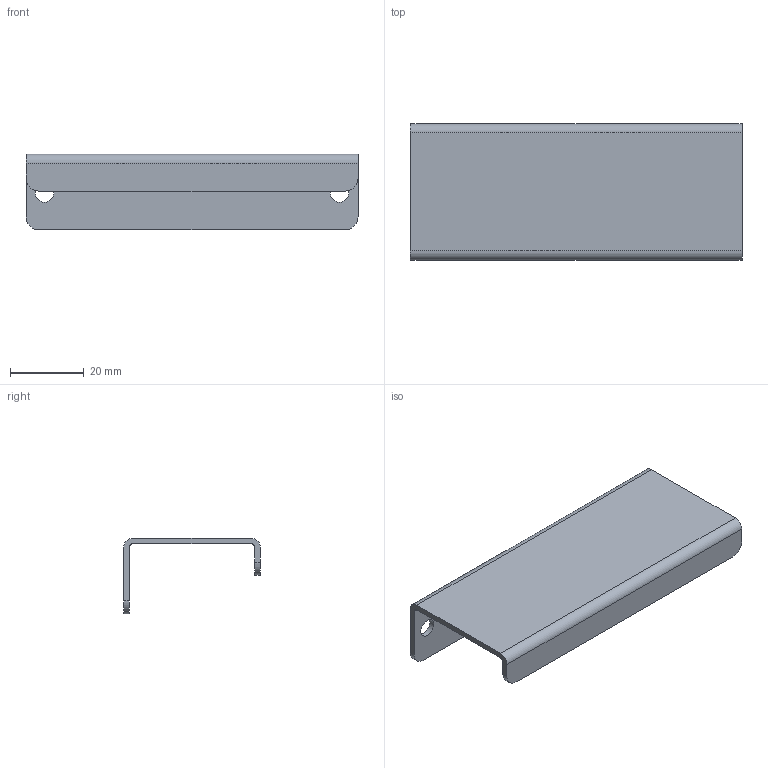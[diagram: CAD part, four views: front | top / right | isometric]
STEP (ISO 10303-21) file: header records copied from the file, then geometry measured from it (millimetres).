
FILE_DESCRIPTION( ( 'STEP AP214' ), '1' );
FILE_NAME( 'C:/Users/kulkarni/Desktop/Apurva/2015/Prodecor_2016/Cadfiles/same as files/Narni/9206741.stp', ' ', ( ' ' ), ( ' ' ), 'PSStep 15.0.47', 'PARTsolutions', ' ' );
FILE_SCHEMA( ( 'AUTOMOTIVE_DESIGN { 1 0 10303 214 1 1 1 1 }' ) );
Length unit declared in the file: millimetre
Products named in the file (1): _9206741
Bounding box: 90 x 37 x 20.5 mm (x, y, z)
Volume: 8430 mm3; surface area: 11737.1 mm2
Topology: 1 solids, 1 shells, 20 faces, 56 edges, 38 vertices
Faces by surface type: plane 10, cylinder 10
Full cylindrical faces by diameter (mm): 5 x2
Entity records: 812 total; most frequent: DIRECTION 114, CARTESIAN_POINT 109, ORIENTED_EDGE 104, EDGE_CURVE 52, AXIS2_PLACEMENT_3D 41, VERTEX_POINT 36, LINE 32, VECTOR 32
